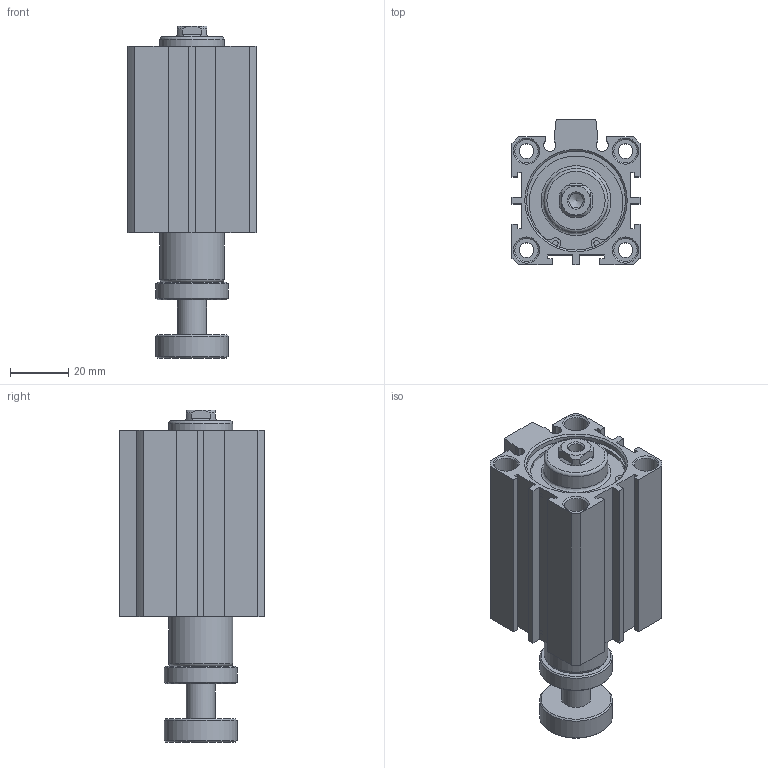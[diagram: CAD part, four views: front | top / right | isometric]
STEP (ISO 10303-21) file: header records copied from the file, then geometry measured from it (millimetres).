
FILE_DESCRIPTION((''),'2;1');
FILE_NAME('I:\3D電子目錄\氣缸\JDAR\JDAR-S\JDAR32-S\JDAR32x30-S.stp','2007-05-05T09:27:14',('662F206'),(''),'Autodesk Inventor 11','Autodesk Inventor 11','');
FILE_SCHEMA(('AUTOMOTIVE_DESIGN { 1 0 10303 214 1 1 1 1 }'));
Length unit declared in the file: millimetre
Products named in the file (3): JDAR32-S; JDAR32; R 形環 35
Assembly tree (3 placements, depth 2):
  JDAR32-S
    JDAR32
    R 形環 35  x2
Bounding box: 44 x 50 x 114.1 mm (x, y, z)
Volume: 120974.4 mm3; surface area: 32604.2 mm2
Topology: 3 solids, 3 shells, 170 faces, 399 edges, 259 vertices
Faces by surface type: plane 88, cylinder 51, cone 21, bspline 8, torus 2
Full cylindrical faces by diameter (mm): 1.9 x4, 2.2 x2, 5.1 x4, 8 x8, 10 x1, 22 x2, 25 x2, 34 x4, 36 x2
Entity records: 4435 total; most frequent: CARTESIAN_POINT 886, DIRECTION 740, ORIENTED_EDGE 622, EDGE_CURVE 311, AXIS2_PLACEMENT_3D 281, EDGE_LOOP 246, VERTEX_POINT 233, VECTOR 178
